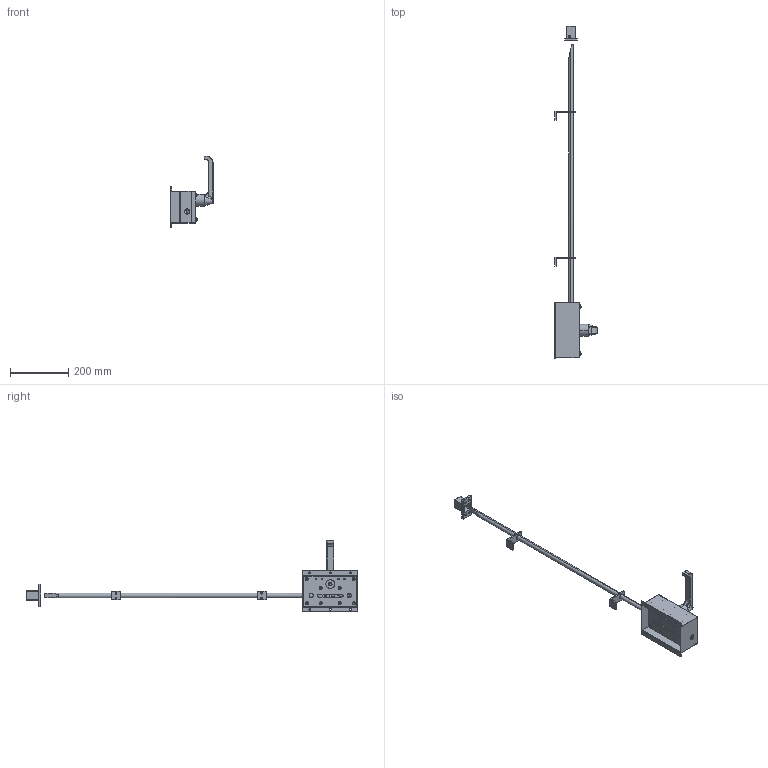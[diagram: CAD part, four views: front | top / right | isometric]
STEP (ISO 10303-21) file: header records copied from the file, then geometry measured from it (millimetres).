
FILE_DESCRIPTION (( 'STEP AP203' ), '1' );
FILE_NAME ('DL-2000H.STEP', '2014-03-04T07:46:04', ( 'SDS' ), ( 'SDS' ), 'SwSTEP 2.0', 'SolidWorks 2002296', '' );
FILE_SCHEMA (( 'CONFIG_CONTROL_DESIGN' ));
Length unit declared in the file: millimetre
Products named in the file (36): DL-2000H; DL-2000H19_蹬怮椔; DL-2000H22_蹬怮椔; DL-2000H28_蹬怮椔; DL-2000H32_蹬怮椔; DL-2000H33_蹬怮椔; DL-2000H11_蹬怮椔; DL-2000H12_蹬怮椔; DL-2000H13_蹬怮椔; DL-2000H18_蹬怮椔; DL-2000H20_蹬怮椔; DL-2000H23_蹬怮椔; DL-2000H9_蹬怮椔; DL-2000H6_蹬怮椔; DL-2000H5_蹬怮椔; DL-2000H21_蹬怮椔; DL-2000H24_蹬怮椔; DL-2000H25_蹬怮椔; DL-2000H26_蹬怮椔; DL-2000H7_蹬怮椔; DL-2000H8_蹬怮椔; DL-2000H14_蹬怮椔; DL-2000H15_蹬怮椔; DL-2000H16_蹬怮椔; DL-2000H17_蹬怮椔; DL-2000H27_蹬怮椔; DL-2000H29_蹬怮椔; DL-2000H30_蹬怮椔; DL-2000H31_蹬怮椔; DL-2000H34_蹬怮椔; DL-2000H35_蹬怮椔; DL-2000H1_蹬怮椔; DL-2000H2_蹬怮椔; DL-2000H3_蹬怮椔; DL-2000H10_蹬怮椔; DL-2000H4_蹬怮椔
Assembly tree (35 placements, depth 2):
  DL-2000H
    DL-2000H12_蹬怮椔
    DL-2000H8_蹬怮椔
    DL-2000H20_蹬怮椔
    DL-2000H18_蹬怮椔
    DL-2000H10_蹬怮椔
    DL-2000H9_蹬怮椔
    DL-2000H14_蹬怮椔
    DL-2000H31_蹬怮椔
    DL-2000H23_蹬怮椔
    DL-2000H15_蹬怮椔
    DL-2000H4_蹬怮椔
    DL-2000H27_蹬怮椔
    DL-2000H29_蹬怮椔
    DL-2000H16_蹬怮椔
    DL-2000H35_蹬怮椔
    DL-2000H11_蹬怮椔
    DL-2000H13_蹬怮椔
    DL-2000H30_蹬怮椔
    DL-2000H3_蹬怮椔
    DL-2000H19_蹬怮椔
    DL-2000H32_蹬怮椔
    DL-2000H6_蹬怮椔
    DL-2000H24_蹬怮椔
    DL-2000H25_蹬怮椔
    DL-2000H17_蹬怮椔
    DL-2000H1_蹬怮椔
    DL-2000H22_蹬怮椔
    DL-2000H28_蹬怮椔
    DL-2000H7_蹬怮椔
    DL-2000H33_蹬怮椔
    DL-2000H34_蹬怮椔
    DL-2000H5_蹬怮椔
    DL-2000H21_蹬怮椔
    DL-2000H26_蹬怮椔
    DL-2000H2_蹬怮椔
Bounding box: 144 x 1138 x 244 mm (x, y, z)
Volume: 877252.3 mm3; surface area: 407156.7 mm2
Topology: 35 solids, 35 shells, 953 faces, 2354 edges, 1496 vertices
Faces by surface type: cylinder 402, plane 388, cone 113, bspline 50
Entity records: 35643 total; most frequent: CARTESIAN_POINT 8701, DIRECTION 4959, ORIENTED_EDGE 4668, EDGE_CURVE 2334, AXIS2_PLACEMENT_3D 1843, VERTEX_POINT 1496, LINE 1273, VECTOR 1273
